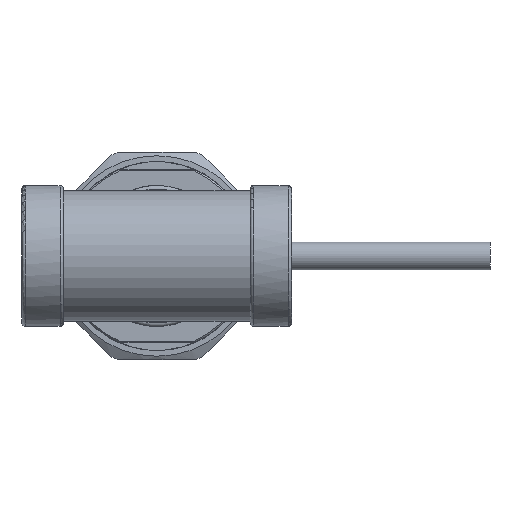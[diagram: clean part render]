
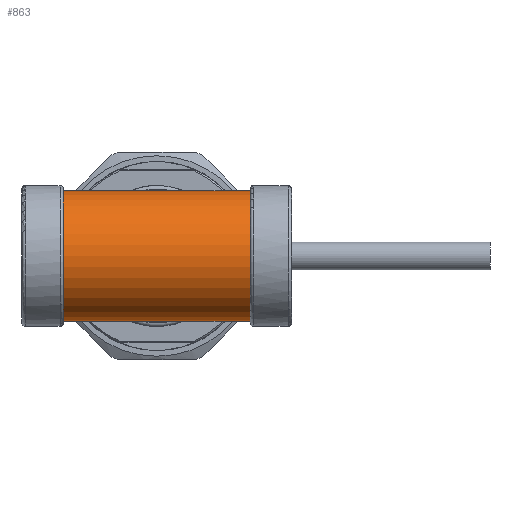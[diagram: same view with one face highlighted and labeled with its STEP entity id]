
A CAD part, front view. The second image highlights one B-rep face of the part: STEP entity #863.
In plain terms, the highlighted cylindrical face has radius 9.45 mm (diameter 18.9 mm), a partial arc.
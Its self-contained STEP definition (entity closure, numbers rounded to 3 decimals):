
#176=ELLIPSE('',#3560,13.722,9.45);
#177=ELLIPSE('',#3561,13.722,9.45);
#178=ELLIPSE('',#3562,13.722,9.45);
#179=ELLIPSE('',#3563,13.722,9.45);
#306=LINE('',#7917,#528);
#307=LINE('',#7923,#529);
#308=LINE('',#7924,#530);
#309=LINE('',#7929,#531);
#528=VECTOR('',#3961,1.);
#529=VECTOR('',#3966,1.);
#530=VECTOR('',#3967,1.);
#531=VECTOR('',#3972,1.);
#863=ADVANCED_FACE('',(#1109),#1056,.T.);
#1056=CYLINDRICAL_SURFACE('',#3564,9.45);
#1109=FACE_OUTER_BOUND('',#1268,.T.);
#1268=EDGE_LOOP('',(#1675,#1676,#1677,#1678,#1679,#1680,#1681,#1682,#1683,
#1684));
#1675=ORIENTED_EDGE('',*,*,#2963,.T.);
#1676=ORIENTED_EDGE('',*,*,#2964,.T.);
#1677=ORIENTED_EDGE('',*,*,#2965,.T.);
#1678=ORIENTED_EDGE('',*,*,#2966,.T.);
#1679=ORIENTED_EDGE('',*,*,#2967,.T.);
#1680=ORIENTED_EDGE('',*,*,#2961,.F.);
#1681=ORIENTED_EDGE('',*,*,#2968,.T.);
#1682=ORIENTED_EDGE('',*,*,#2969,.T.);
#1683=ORIENTED_EDGE('',*,*,#2970,.T.);
#1684=ORIENTED_EDGE('',*,*,#2971,.T.);
#2600=VERTEX_POINT('',#7856);
#2624=VERTEX_POINT('',#7909);
#2625=VERTEX_POINT('',#7911);
#2626=VERTEX_POINT('',#7915);
#2627=VERTEX_POINT('',#7916);
#2628=VERTEX_POINT('',#7918);
#2629=VERTEX_POINT('',#7920);
#2630=VERTEX_POINT('',#7922);
#2631=VERTEX_POINT('',#7925);
#2632=VERTEX_POINT('',#7928);
#2961=EDGE_CURVE('',#2624,#2625,#3393,.T.);
#2963=EDGE_CURVE('',#2626,#2627,#3395,.T.);
#2964=EDGE_CURVE('',#2627,#2628,#306,.T.);
#2965=EDGE_CURVE('',#2628,#2629,#176,.T.);
#2966=EDGE_CURVE('',#2629,#2630,#177,.T.);
#2967=EDGE_CURVE('',#2630,#2625,#307,.T.);
#2968=EDGE_CURVE('',#2624,#2631,#308,.T.);
#2969=EDGE_CURVE('',#2631,#2600,#178,.T.);
#2970=EDGE_CURVE('',#2600,#2632,#179,.T.);
#2971=EDGE_CURVE('',#2632,#2626,#309,.T.);
#3393=CIRCLE('',#3556,9.45);
#3395=CIRCLE('',#3559,9.45);
#3556=AXIS2_PLACEMENT_3D('',#7910,#3953,#3954);
#3559=AXIS2_PLACEMENT_3D('',#7914,#3959,#3960);
#3560=AXIS2_PLACEMENT_3D('',#7919,#3962,#3963);
#3561=AXIS2_PLACEMENT_3D('',#7921,#3964,#3965);
#3562=AXIS2_PLACEMENT_3D('',#7926,#3968,#3969);
#3563=AXIS2_PLACEMENT_3D('',#7927,#3970,#3971);
#3564=AXIS2_PLACEMENT_3D('',#7930,#3973,#3974);
#3953=DIRECTION('',(-1.,0.,0.));
#3954=DIRECTION('',(0.,0.,-1.));
#3959=DIRECTION('',(-1.,0.,0.));
#3960=DIRECTION('',(0.,0.,1.));
#3961=DIRECTION('',(-1.,0.,0.));
#3962=DIRECTION('',(0.689,-0.725,0.));
#3963=DIRECTION('',(0.725,0.689,0.));
#3964=DIRECTION('',(-0.689,-0.725,0.));
#3965=DIRECTION('',(0.725,-0.689,0.));
#3966=DIRECTION('',(-1.,0.,0.));
#3967=DIRECTION('',(1.,0.,0.));
#3968=DIRECTION('',(-0.689,-0.725,0.));
#3969=DIRECTION('',(0.725,-0.689,0.));
#3970=DIRECTION('',(0.689,-0.725,0.));
#3971=DIRECTION('',(0.725,0.689,0.));
#3972=DIRECTION('',(1.,0.,0.));
#3973=DIRECTION('',(1.,0.,0.));
#3974=DIRECTION('',(0.,1.,0.));
#7856=CARTESIAN_POINT('',(0.,0.,-9.45));
#7909=CARTESIAN_POINT('',(-13.5,9.257,-1.899));
#7910=CARTESIAN_POINT('',(-13.5,0.,0.));
#7911=CARTESIAN_POINT('',(-13.5,9.257,1.899));
#7914=CARTESIAN_POINT('',(13.5,0.,0.));
#7915=CARTESIAN_POINT('',(13.5,9.257,-1.899));
#7916=CARTESIAN_POINT('',(13.5,9.257,1.899));
#7917=CARTESIAN_POINT('',(0.,9.257,1.899));
#7918=CARTESIAN_POINT('',(9.747,9.257,1.899));
#7919=CARTESIAN_POINT('',(0.,0.,0.));
#7920=CARTESIAN_POINT('',(0.,0.,9.45));
#7921=CARTESIAN_POINT('',(0.,0.,0.));
#7922=CARTESIAN_POINT('',(-9.747,9.257,1.899));
#7923=CARTESIAN_POINT('',(0.,9.257,1.899));
#7924=CARTESIAN_POINT('',(0.,9.257,-1.899));
#7925=CARTESIAN_POINT('',(-9.747,9.257,-1.899));
#7926=CARTESIAN_POINT('',(0.,0.,0.));
#7927=CARTESIAN_POINT('',(0.,0.,0.));
#7928=CARTESIAN_POINT('',(9.747,9.257,-1.899));
#7929=CARTESIAN_POINT('',(0.,9.257,-1.899));
#7930=CARTESIAN_POINT('',(0.,0.,0.));
